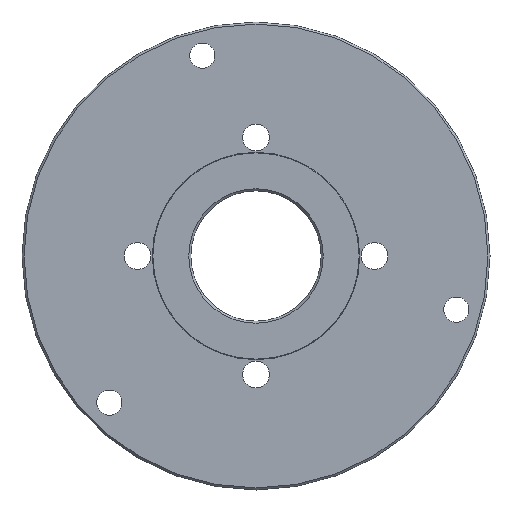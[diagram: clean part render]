
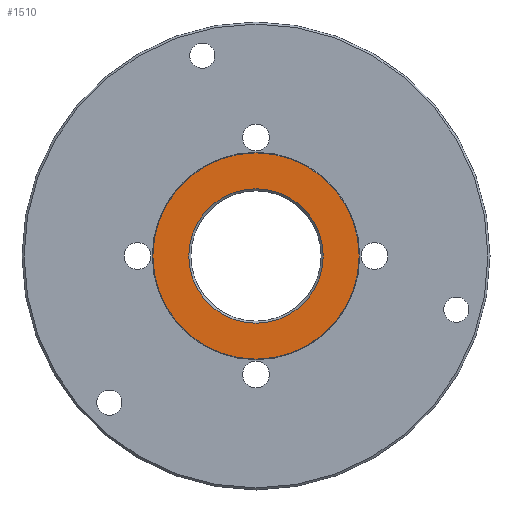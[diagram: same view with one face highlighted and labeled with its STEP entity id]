
A CAD part, front view. The second image highlights one B-rep face of the part: STEP entity #1510.
In plain terms, the highlighted planar face has unit normal (0, -1, 0).
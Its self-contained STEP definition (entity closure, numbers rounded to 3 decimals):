
#2 = FACE_BOUND ( 'NONE', #1330, .T. ) ;
#60 = DIRECTION ( 'NONE',  ( 0., 1., 0. ) ) ;
#66 = VERTEX_POINT ( 'NONE', #126 ) ;
#78 = CIRCLE ( 'NONE', #647, 22.7 ) ;
#126 = CARTESIAN_POINT ( 'NONE',  ( 0., 0., -34.812 ) ) ;
#127 = CARTESIAN_POINT ( 'NONE',  ( 0., 0., 0. ) ) ;
#227 = PLANE ( 'NONE',  #320 ) ;
#236 = CARTESIAN_POINT ( 'NONE',  ( 0., 0., 0. ) ) ;
#320 = AXIS2_PLACEMENT_3D ( 'NONE', #939, #1310, #1419 ) ;
#372 = VERTEX_POINT ( 'NONE', #1145 ) ;
#387 = CARTESIAN_POINT ( 'NONE',  ( 0., 0., 0. ) ) ;
#411 = CIRCLE ( 'NONE', #507, 22.7 ) ;
#449 = AXIS2_PLACEMENT_3D ( 'NONE', #387, #1477, #602 ) ;
#456 = DIRECTION ( 'NONE',  ( 0., 1., 0. ) ) ;
#507 = AXIS2_PLACEMENT_3D ( 'NONE', #1068, #456, #1504 ) ;
#509 = EDGE_CURVE ( 'NONE', #372, #896, #411, .T. ) ;
#560 = CARTESIAN_POINT ( 'NONE',  ( 0., 0., -22.7 ) ) ;
#602 = DIRECTION ( 'NONE',  ( 0., 0., -1. ) ) ;
#641 = ORIENTED_EDGE ( 'NONE', *, *, #706, .T. ) ;
#647 = AXIS2_PLACEMENT_3D ( 'NONE', #236, #60, #1026 ) ;
#706 = EDGE_CURVE ( 'NONE', #894, #66, #1440, .T. ) ;
#733 = ORIENTED_EDGE ( 'NONE', *, *, #1109, .T. ) ;
#779 = EDGE_CURVE ( 'NONE', #66, #894, #1065, .T. ) ;
#872 = ORIENTED_EDGE ( 'NONE', *, *, #509, .T. ) ;
#894 = VERTEX_POINT ( 'NONE', #1053 ) ;
#896 = VERTEX_POINT ( 'NONE', #560 ) ;
#939 = CARTESIAN_POINT ( 'NONE',  ( 35., 0., 0. ) ) ;
#1026 = DIRECTION ( 'NONE',  ( 0., 0., -1. ) ) ;
#1053 = CARTESIAN_POINT ( 'NONE',  ( 0., 0., 34.812 ) ) ;
#1065 = CIRCLE ( 'NONE', #449, 34.812 ) ;
#1068 = CARTESIAN_POINT ( 'NONE',  ( 0., 0., 0. ) ) ;
#1109 = EDGE_CURVE ( 'NONE', #896, #372, #78, .T. ) ;
#1135 = DIRECTION ( 'NONE',  ( 0., 0., -1. ) ) ;
#1145 = CARTESIAN_POINT ( 'NONE',  ( 0., 0., 22.7 ) ) ;
#1214 = FACE_OUTER_BOUND ( 'NONE', #1367, .T. ) ;
#1310 = DIRECTION ( 'NONE',  ( 0., -1., 0. ) ) ;
#1330 = EDGE_LOOP ( 'NONE', ( #733, #872 ) ) ;
#1367 = EDGE_LOOP ( 'NONE', ( #641, #1436 ) ) ;
#1419 = DIRECTION ( 'NONE',  ( 0., 0., -1. ) ) ;
#1425 = AXIS2_PLACEMENT_3D ( 'NONE', #127, #1448, #1135 ) ;
#1436 = ORIENTED_EDGE ( 'NONE', *, *, #779, .T. ) ;
#1440 = CIRCLE ( 'NONE', #1425, 34.812 ) ;
#1448 = DIRECTION ( 'NONE',  ( 0., -1., 0. ) ) ;
#1477 = DIRECTION ( 'NONE',  ( 0., -1., 0. ) ) ;
#1504 = DIRECTION ( 'NONE',  ( 0., 0., -1. ) ) ;
#1510 = ADVANCED_FACE ( 'NONE', ( #2, #1214 ), #227, .T. ) ;
